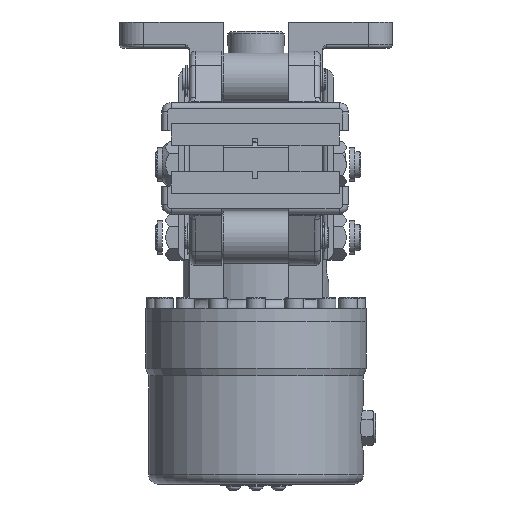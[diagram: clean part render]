
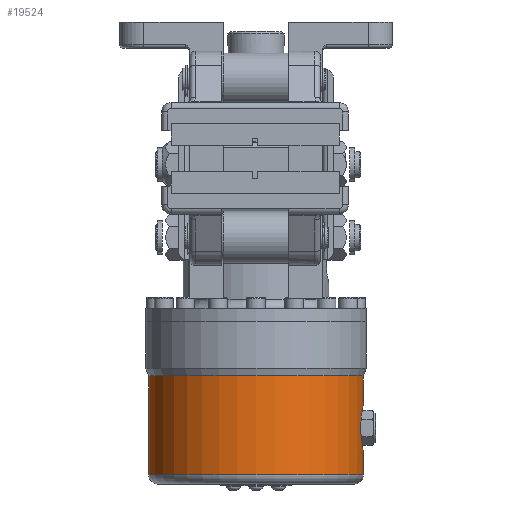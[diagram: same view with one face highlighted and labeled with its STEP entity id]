
A CAD part, front view. The second image highlights one B-rep face of the part: STEP entity #19524.
In plain terms, the highlighted cylindrical face has radius 57.5 mm (diameter 115 mm), a full revolution.
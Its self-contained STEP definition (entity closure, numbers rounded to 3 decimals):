
#662=CYLINDRICAL_SURFACE('',#21435,57.5);
#804=FACE_BOUND('',#5783,.T.);
#1871=LINE('',#35586,#3103);
#3103=VECTOR('',#26278,57.5);
#4649=FACE_OUTER_BOUND('',#5782,.T.);
#5782=EDGE_LOOP('',(#16489,#16490,#16491,#16492,#16493,#16494,#16495));
#5783=EDGE_LOOP('',(#16496,#16497));
#6181=B_SPLINE_CURVE_WITH_KNOTS('',3,(#35590,#35591,#35592,#35593,#35594,
#35595,#35596,#35597,#35598,#35599,#35600,#35601,#35602,#35603,#35604,#35605,
#35606,#35607),.UNSPECIFIED.,.F.,.F.,(4,2,2,2,2,2,2,2,4),(1.89,
2.362,2.835,3.307,3.78,4.252,
4.725,5.197,5.67),.UNSPECIFIED.);
#6182=B_SPLINE_CURVE_WITH_KNOTS('',3,(#35608,#35609,#35610,#35611,#35612,
#35613,#35614,#35615,#35616,#35617,#35618,#35619,#35620,#35621,#35622,#35623,
#35624,#35625,#35626),.UNSPECIFIED.,.F.,.F.,(4,2,2,2,3,2,2,2,4),(5.67,
6.142,6.615,7.087,7.56,8.032,
8.505,8.977,9.45),.UNSPECIFIED.);
#7042=CIRCLE('',#21346,57.5);
#7043=CIRCLE('',#21347,57.5);
#7110=CIRCLE('',#21436,57.5);
#7111=CIRCLE('',#21437,57.5);
#7112=CIRCLE('',#21438,57.5);
#8774=VERTEX_POINT('',#35373);
#8775=VERTEX_POINT('',#35374);
#8844=VERTEX_POINT('',#35581);
#8845=VERTEX_POINT('',#35582);
#8846=VERTEX_POINT('',#35584);
#8847=VERTEX_POINT('',#35588);
#8848=VERTEX_POINT('',#35589);
#11394=EDGE_CURVE('',#8774,#8775,#7042,.T.);
#11395=EDGE_CURVE('',#8775,#8774,#7043,.T.);
#11476=EDGE_CURVE('',#8844,#8845,#7110,.T.);
#11477=EDGE_CURVE('',#8846,#8844,#7111,.T.);
#11478=EDGE_CURVE('',#8846,#8775,#1871,.T.);
#11479=EDGE_CURVE('',#8845,#8846,#7112,.T.);
#11480=EDGE_CURVE('',#8847,#8848,#6181,.T.);
#11481=EDGE_CURVE('',#8848,#8847,#6182,.T.);
#16489=ORIENTED_EDGE('',*,*,#11476,.F.);
#16490=ORIENTED_EDGE('',*,*,#11477,.F.);
#16491=ORIENTED_EDGE('',*,*,#11478,.T.);
#16492=ORIENTED_EDGE('',*,*,#11395,.T.);
#16493=ORIENTED_EDGE('',*,*,#11394,.T.);
#16494=ORIENTED_EDGE('',*,*,#11478,.F.);
#16495=ORIENTED_EDGE('',*,*,#11479,.F.);
#16496=ORIENTED_EDGE('',*,*,#11480,.T.);
#16497=ORIENTED_EDGE('',*,*,#11481,.T.);
#19524=ADVANCED_FACE('',(#4649,#804),#662,.T.);
#21346=AXIS2_PLACEMENT_3D('',#35375,#26082,#26083);
#21347=AXIS2_PLACEMENT_3D('',#35376,#26084,#26085);
#21435=AXIS2_PLACEMENT_3D('',#35580,#26272,#26273);
#21436=AXIS2_PLACEMENT_3D('',#35583,#26274,#26275);
#21437=AXIS2_PLACEMENT_3D('',#35585,#26276,#26277);
#21438=AXIS2_PLACEMENT_3D('',#35587,#26279,#26280);
#26082=DIRECTION('center_axis',(0.,0.,
-1.));
#26083=DIRECTION('ref_axis',(1.,0.,0.));
#26084=DIRECTION('center_axis',(0.,0.,
-1.));
#26085=DIRECTION('ref_axis',(1.,0.,0.));
#26272=DIRECTION('center_axis',(0.,0.,
-1.));
#26273=DIRECTION('ref_axis',(1.,0.,0.));
#26274=DIRECTION('center_axis',(0.,0.,
-1.));
#26275=DIRECTION('ref_axis',(-1.,0.,0.));
#26276=DIRECTION('center_axis',(0.,0.,
-1.));
#26277=DIRECTION('ref_axis',(-1.,0.,0.));
#26278=DIRECTION('',(0.,0.,1.));
#26279=DIRECTION('center_axis',(0.,0.,
-1.));
#26280=DIRECTION('ref_axis',(-1.,0.,0.));
#35373=CARTESIAN_POINT('',(104.5,140.,-116.471));
#35374=CARTESIAN_POINT('',(-10.5,140.,-116.471));
#35375=CARTESIAN_POINT('Origin',(47.,140.,-116.471));
#35376=CARTESIAN_POINT('Origin',(47.,140.,-116.471));
#35580=CARTESIAN_POINT('Origin',(47.,140.,-145.411));
#35581=CARTESIAN_POINT('',(104.5,140.,-169.35));
#35582=CARTESIAN_POINT('',(47.,82.5,-169.35));
#35583=CARTESIAN_POINT('Origin',(47.,140.,-169.35));
#35584=CARTESIAN_POINT('',(-10.5,140.,-169.35));
#35585=CARTESIAN_POINT('Origin',(47.,140.,-169.35));
#35586=CARTESIAN_POINT('',(-10.5,140.,-145.411));
#35587=CARTESIAN_POINT('Origin',(47.,140.,-169.35));
#35588=CARTESIAN_POINT('',(104.5,140.,-131.85));
#35589=CARTESIAN_POINT('',(104.5,140.,-156.85));
#35590=CARTESIAN_POINT('Ctrl Pts',(104.5,140.,-131.85));
#35591=CARTESIAN_POINT('Ctrl Pts',(104.5,141.575,-131.85));
#35592=CARTESIAN_POINT('Ctrl Pts',(104.429,143.251,-132.166));
#35593=CARTESIAN_POINT('Ctrl Pts',(104.171,146.33,-133.443));
#35594=CARTESIAN_POINT('Ctrl Pts',(103.989,147.732,-134.404));
#35595=CARTESIAN_POINT('Ctrl Pts',(103.644,149.946,-136.618));
#35596=CARTESIAN_POINT('Ctrl Pts',(103.46,150.907,-138.02));
#35597=CARTESIAN_POINT('Ctrl Pts',(103.198,152.184,-141.099));
#35598=CARTESIAN_POINT('Ctrl Pts',(103.125,152.5,-142.775));
#35599=CARTESIAN_POINT('Ctrl Pts',(103.125,152.5,-145.925));
#35600=CARTESIAN_POINT('Ctrl Pts',(103.198,152.184,-147.601));
#35601=CARTESIAN_POINT('Ctrl Pts',(103.46,150.907,-150.68));
#35602=CARTESIAN_POINT('Ctrl Pts',(103.644,149.946,-152.082));
#35603=CARTESIAN_POINT('Ctrl Pts',(103.989,147.732,-154.296));
#35604=CARTESIAN_POINT('Ctrl Pts',(104.171,146.33,-155.257));
#35605=CARTESIAN_POINT('Ctrl Pts',(104.429,143.251,-156.534));
#35606=CARTESIAN_POINT('Ctrl Pts',(104.5,141.575,-156.85));
#35607=CARTESIAN_POINT('Ctrl Pts',(104.5,140.,-156.85));
#35608=CARTESIAN_POINT('Ctrl Pts',(104.5,140.,-156.85));
#35609=CARTESIAN_POINT('Ctrl Pts',(104.5,138.425,-156.85));
#35610=CARTESIAN_POINT('Ctrl Pts',(104.429,136.749,-156.534));
#35611=CARTESIAN_POINT('Ctrl Pts',(104.171,133.67,-155.257));
#35612=CARTESIAN_POINT('Ctrl Pts',(103.989,132.268,-154.296));
#35613=CARTESIAN_POINT('Ctrl Pts',(103.644,130.054,-152.082));
#35614=CARTESIAN_POINT('Ctrl Pts',(103.46,129.093,-150.68));
#35615=CARTESIAN_POINT('Ctrl Pts',(103.198,127.816,-147.601));
#35616=CARTESIAN_POINT('Ctrl Pts',(103.125,127.5,-145.925));
#35617=CARTESIAN_POINT('Ctrl Pts',(103.125,127.5,-144.35));
#35618=CARTESIAN_POINT('Ctrl Pts',(103.125,127.5,-142.775));
#35619=CARTESIAN_POINT('Ctrl Pts',(103.198,127.816,-141.099));
#35620=CARTESIAN_POINT('Ctrl Pts',(103.46,129.093,-138.02));
#35621=CARTESIAN_POINT('Ctrl Pts',(103.644,130.054,-136.618));
#35622=CARTESIAN_POINT('Ctrl Pts',(103.989,132.268,-134.404));
#35623=CARTESIAN_POINT('Ctrl Pts',(104.171,133.67,-133.443));
#35624=CARTESIAN_POINT('Ctrl Pts',(104.429,136.749,-132.166));
#35625=CARTESIAN_POINT('Ctrl Pts',(104.5,138.425,-131.85));
#35626=CARTESIAN_POINT('Ctrl Pts',(104.5,140.,-131.85));
